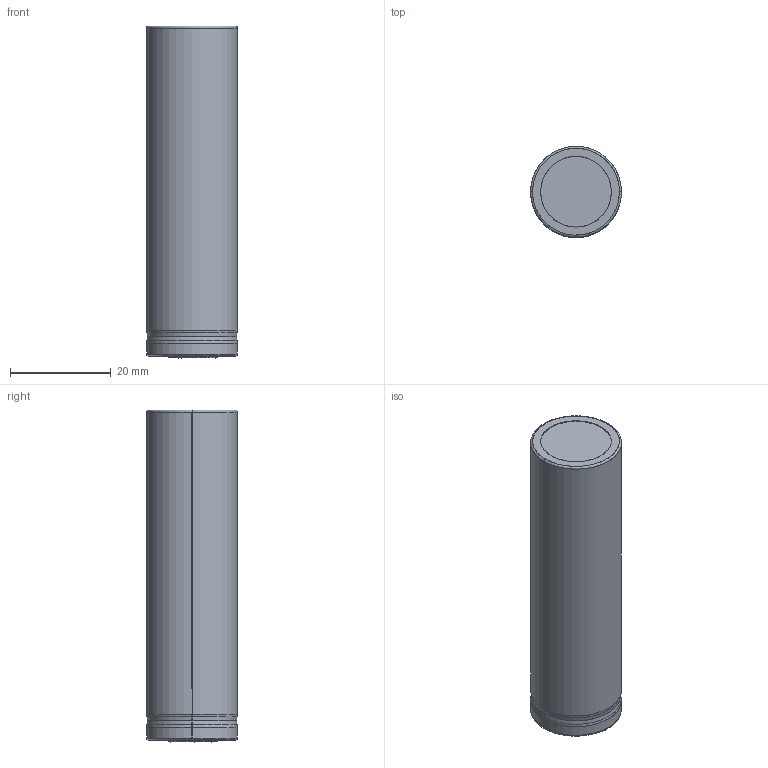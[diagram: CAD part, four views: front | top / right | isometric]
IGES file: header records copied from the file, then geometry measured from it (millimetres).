
Start section: SolidWorks IGES file using analytic representation for surfaces
Global section: file name: C:\Users\chait\Desktop\Battery Module Design\18650 Li Ion Battery.IGS; native system: SolidWorks 2019; preprocessor: SolidWorks 2019; author: chait; date: 201018.171847; units: millimetre
Bounding box: 18 x 18 x 65.78 mm (x, y, z)
Surface area: 4411 mm2 (no closed solid volume)
Topology: 0 solids, 0 shells, 55 faces, 674 edges, 674 vertices
Faces by surface type: bspline 28, revolution 27
